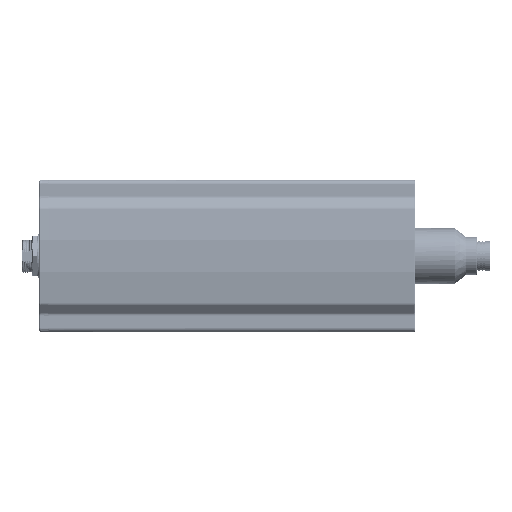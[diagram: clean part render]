
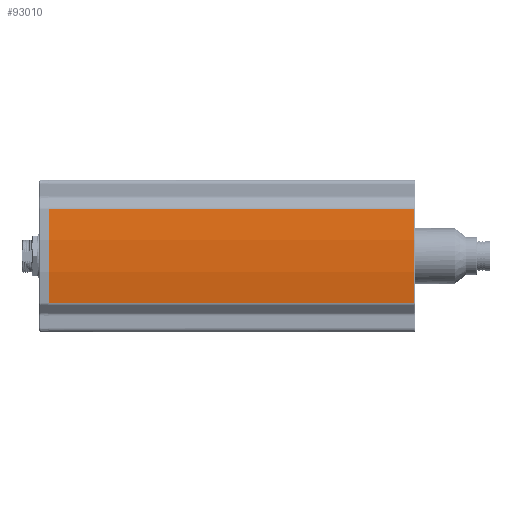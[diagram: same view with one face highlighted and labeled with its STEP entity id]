
A CAD part, front view. The second image highlights one B-rep face of the part: STEP entity #93010.
In plain terms, the highlighted cylindrical face has radius 165.451 mm (diameter 330.901 mm), a partial arc.
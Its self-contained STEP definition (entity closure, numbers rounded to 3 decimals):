
#25086=CARTESIAN_POINT('',(-120.,130.39,0.));
#25087=DIRECTION('',(-1.,0.,0.));
#25088=DIRECTION('',(0.,-0.987,-0.159));
#25089=AXIS2_PLACEMENT_3D('',#25086,#25087,#25088);
#27696=DIRECTION('',(-1.,0.,0.));
#27697=VECTOR('',#27696,202.7);
#27698=CARTESIAN_POINT('',(82.7,-32.707,-26.212));
#27699=LINE('',#27698,#27697);
#28770=DIRECTION('',(-1.,0.,0.));
#28771=VECTOR('',#28770,202.7);
#28772=CARTESIAN_POINT('',(82.7,-32.707,26.212));
#28773=LINE('',#28772,#28771);
#31487=CARTESIAN_POINT('',(82.7,130.654,0.));
#31488=DIRECTION('',(1.,0.,0.));
#31489=DIRECTION('',(0.,-0.987,0.158));
#31490=AXIS2_PLACEMENT_3D('',#31487,#31488,#31489);
#50153=CARTESIAN_POINT('',(82.7,-32.707,-26.211));
#50154=VERTEX_POINT('',#50153);
#50155=CARTESIAN_POINT('',(82.7,-32.707,26.212));
#50156=VERTEX_POINT('',#50155);
#54334=CARTESIAN_POINT('',(-120.,-32.707,-26.212));
#54336=VERTEX_POINT('',#54334);
#54337=CARTESIAN_POINT('',(-120.,-32.707,26.212));
#54338=VERTEX_POINT('',#54337);
#92996=CARTESIAN_POINT('',(0.,130.654,0.));
#92997=DIRECTION('',(-1.,0.,0.));
#92998=DIRECTION('',(0.,0.987,0.158));
#92999=AXIS2_PLACEMENT_3D('',#92996,#92997,#92998);
#93000=CYLINDRICAL_SURFACE('',#92999,165.451);
#93002=ORIENTED_EDGE('',*,*,#93001,.F.);
#93004=ORIENTED_EDGE('',*,*,#93003,.T.);
#93006=ORIENTED_EDGE('',*,*,#93005,.T.);
#93007=ORIENTED_EDGE('',*,*,#89376,.T.);
#93008=EDGE_LOOP('',(#93002,#93004,#93006,#93007));
#93009=FACE_OUTER_BOUND('',#93008,.F.);
#93010=ADVANCED_FACE('',(#93009),#93000,.T.);
#25090=CIRCLE('',#25089,165.19);
#31491=CIRCLE('',#31490,165.451);
#89376=EDGE_CURVE('',#54336,#54338,#25090,.T.);
#93001=EDGE_CURVE('',#50156,#54338,#28773,.T.);
#93003=EDGE_CURVE('',#50156,#50154,#31491,.T.);
#93005=EDGE_CURVE('',#50154,#54336,#27699,.T.);
